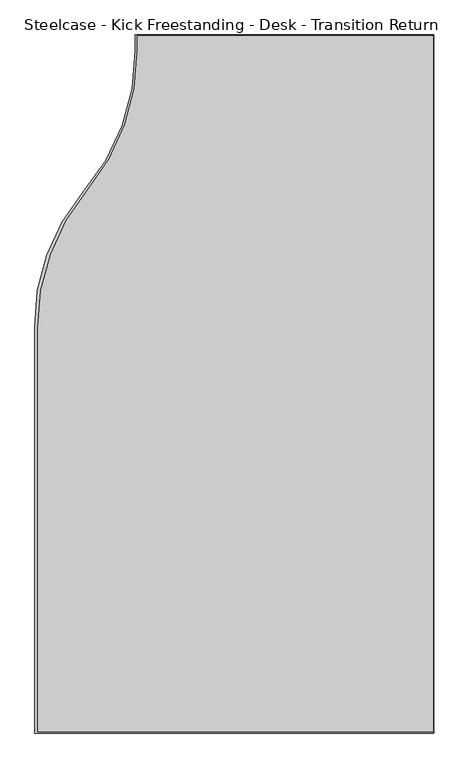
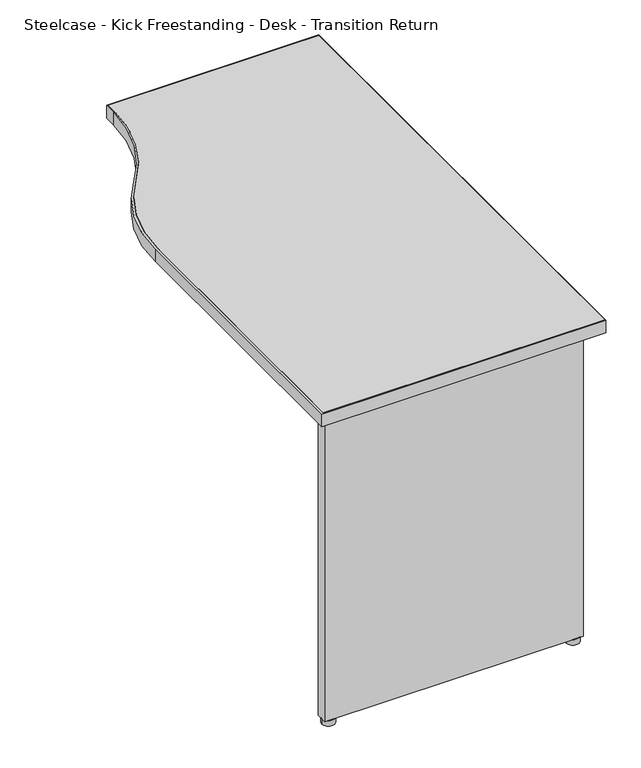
"""IFC4 building model written with IfcOpenShell, lengths in millimetres: furniture geometry, Steelcase - Kick Freestanding - Desk - Transition Return : 18D x 42W - Right."""

from ifc_helpers import new_model, si_unit, point, frame, frame_2d, origin, origin_with_axes, place, context, project, spatial, polyline, circle_curve, trimmed, segment, composite_curve, outline, extrude, source, transform, mapped, element, save


def steelcase_kick_freestanding_desk_transition_return_210bfac6(model_context):
    return source(origin(), model_context, "Body", "SweptSolid", [
        extrude(outline(composite_curve([segment(polyline([(1707.9294594, -546.8145152), (2163.8594425, -546.8145152), (2163.8594425, -1613.6145152), (1554.2594425, -1613.6145152), (1554.2594425, -994.1085152)]), True, "CONTINUOUS"), segment(trimmed(circle_curve(frame_2d((1864.0239413, -987.7058619)), 309.8306613), [point((1554.2594425, -994.1085152))], [point((1628.457587, -786.4509703))], False, "CARTESIAN"), True, "CONTINUOUS"), segment(trimmed(circle_curve(frame_2d((1376.3728371, -571.0836731)), 331.5566223), [point((1628.457587, -786.4509703))], [point((1707.9294594, -571.0836731))], True, "CARTESIAN"), True, "CONTINUOUS"), segment(polyline([(1707.9294594, -571.0836731), (1707.9294594, -546.8145152)]), True, "CONTINUOUS")], self_intersect=False), holes=[composite_curve([segment(polyline([(1710.9012257, -547.8051152), (1710.9012257, -572.1320079)]), True, "CONTINUOUS"), segment(trimmed(circle_curve(frame_2d((1386.0725345, -574.5942763)), 324.8380233), [point((1710.9012257, -572.1320079))], [point((1635.1600947, -783.1011797))], False, "CARTESIAN"), True, "CONTINUOUS"), segment(trimmed(circle_curve(frame_2d((1887.2347336, -994.1085152)), 328.7335079), [point((1635.1600947, -783.1011797))], [point((1558.5012257, -994.1085152))], True, "CARTESIAN"), True, "CONTINUOUS"), segment(polyline([(1558.5012257, -994.1085152), (1558.5012257, -1611.8619332), (2162.8688425, -1611.8619332), (2162.8688425, -547.8051152), (1710.9012257, -547.8051152)]), True, "CONTINUOUS")], self_intersect=False)]), frame((0.0, 0.0, 694.944), z_axis=(0.0, 0.0, 1.0), x_axis=(1.0, 0.0, 0.0)), (0.0, 0.0, 1.0), 28.956),
        extrude(outline(composite_curve([segment(polyline([(2162.8688425, -547.8051152), (2162.8688425, -1611.8619332), (1558.5012257, -1611.8619332), (1558.5012257, -994.1085152)]), True, "CONTINUOUS"), segment(trimmed(circle_curve(frame_2d((1887.2347336, -994.1085152)), 328.7335079), [point((1558.5012257, -994.1085152))], [point((1635.1600947, -783.1011797))], False, "CARTESIAN"), True, "CONTINUOUS"), segment(trimmed(circle_curve(frame_2d((1386.0725345, -574.5942763)), 324.8380233), [point((1635.1600947, -783.1011797))], [point((1710.9012257, -572.1320079))], True, "CARTESIAN"), True, "CONTINUOUS"), segment(polyline([(1710.9012257, -572.1320079), (1710.9012257, -547.8051152), (2162.8688425, -547.8051152)]), True, "CONTINUOUS")], self_intersect=False)), frame((0.0, 0.0, 694.944), z_axis=(0.0, 0.0, 1.0), x_axis=(1.0, 0.0, 0.0)), (0.0, 0.0, 1.0), 28.956),
        extrude(outline(composite_curve([segment(trimmed(circle_curve(frame_2d((2107.4714425, -1588.3669041)), 13.97), [point((2121.4414425, -1588.3669041))], [point((2093.5014425, -1588.3669041))], False, "CARTESIAN"), True, "CONTINUOUS"), segment(trimmed(circle_curve(frame_2d((2107.4714425, -1588.3669041)), 13.97), [point((2093.5014425, -1588.3669041))], [point((2121.4414425, -1588.3669041))], False, "CARTESIAN"), True, "CONTINUOUS")], self_intersect=False)), origin_with_axes(), (0.0, 0.0, 1.0), 12.7),
        extrude(outline(composite_curve([segment(trimmed(circle_curve(frame_2d((1582.4534425, -1588.3669041)), 13.97), [point((1596.4234425, -1588.3669041))], [point((1568.4834425, -1588.3669041))], False, "CARTESIAN"), True, "CONTINUOUS"), segment(trimmed(circle_curve(frame_2d((1582.4534425, -1588.3669041)), 13.97), [point((1568.4834425, -1588.3669041))], [point((1596.4234425, -1588.3669041))], False, "CARTESIAN"), True, "CONTINUOUS")], self_intersect=False)), origin_with_axes(), (0.0, 0.0, 1.0), 12.7),
        extrude(outline(polyline([(2122.7114425, -1575.6669041), (2122.7114425, -1600.1525152), (1568.2294473, -1600.1525152), (1568.2294473, -1575.6669041), (1691.2670317, -1575.6669041), (1691.2670317, -1598.0951136), (1790.9874347, -1598.0951136), (1790.9874347, -1575.6669041), (1899.7248382, -1575.6669041), (1899.7248382, -1598.0951136), (1999.4452412, -1598.0951136), (1999.4452412, -1575.6669041), (2122.7114425, -1575.6669041)])), frame((0.0, 0.0, 12.7), z_axis=(0.0, 0.0, 1.0), x_axis=(1.0, 0.0, 0.0)), (0.0, 0.0, 1.0), 682.244),
    ])


if __name__ == "__main__":
    model = new_model("IFC4")
    model_context = context("Model", 3, world=origin())
    ifc_project = project(units=[si_unit("LENGTHUNIT", "METRE", prefix="MILLI")], contexts=[model_context])
    site = spatial("IfcSite", under=ifc_project)
    building = spatial("IfcBuilding", under=site)
    placement = place(None, origin())
    steelcase_kick_freestanding_desk_transition_return_shape = steelcase_kick_freestanding_desk_transition_return_210bfac6(model_context)
    element("IfcFurniture", 1, ObjectType="Steelcase - Kick Freestanding - Desk - Transition Return : 18D x 42W - Right", at=placement, inside=building, context=model_context, shape_type="MappedRepresentation", body=[
        mapped(steelcase_kick_freestanding_desk_transition_return_shape, transform((0.0, 0.0, 0.0), x_axis=(1.0, 0.0, 0.0), y_axis=(0.0, 1.0, 0.0), z_axis=(0.0, 0.0, 1.0))),
    ])
    save(model, "model.ifc")
